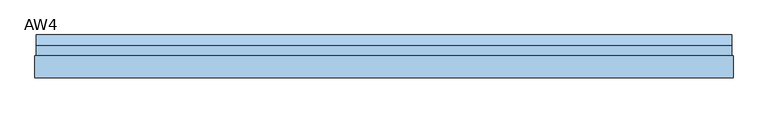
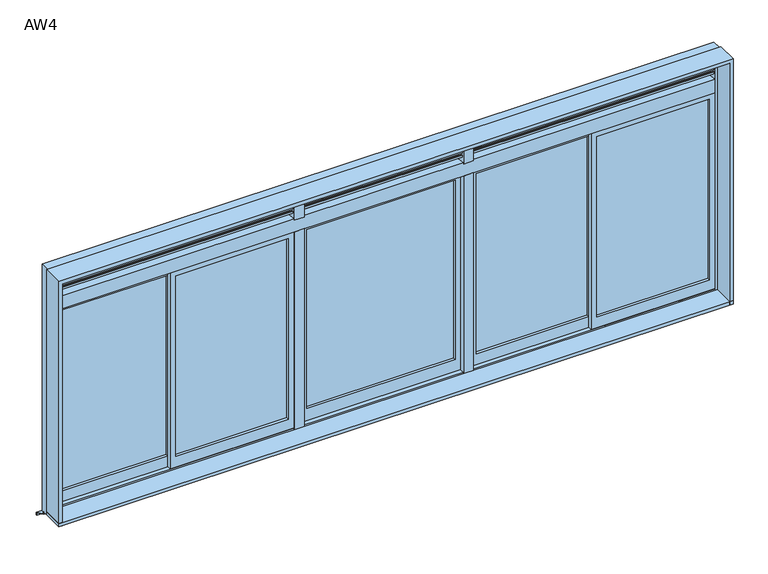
"""IFC4 building model written with IfcOpenShell, lengths in millimetres: window geometry, 営_連段窓_引違い+FIX/ガラリ : AW4."""

from ifc_helpers import new_model, si_unit, frame, origin, place, context, project, spatial, polyline, outline, extrude, source, transform, mapped, element, save


def aw4_4580bdda(model_context):
    return source(origin(), model_context, "Body", "SweptSolid", [
        extrude(outline(polyline([(20.0, 2823.2493654), (20.0, 2805.0), (15.0, 2805.0), (15.0, 2820.0), (-30.0, 2840.0), (-30.0, 2855.0), (-25.0, 2855.0), (-25.0, 2843.2493654), (20.0, 2823.2493654)])), frame((640.0, 0.0, 0.0), z_axis=(1.0, 0.0, 0.0), x_axis=(0.0, 1.0, 0.0)), (0.0, 0.0, 1.0), 1730.0),
        extrude(outline(polyline([(20.0, 2793.2493654), (20.0, 2775.0), (15.0, 2775.0), (15.0, 2790.0), (-30.0, 2810.0), (-30.0, 2825.0), (-25.0, 2825.0), (-25.0, 2813.2493654), (20.0, 2793.2493654)])), frame((640.0, 0.0, 0.0), z_axis=(1.0, 0.0, 0.0), x_axis=(0.0, 1.0, 0.0)), (0.0, 0.0, 1.0), 1730.0),
        extrude(outline(polyline([(20.0, 2763.2493654), (20.0, 2745.0), (15.0, 2745.0), (15.0, 2760.0), (-30.0, 2780.0), (-30.0, 2795.0), (-25.0, 2795.0), (-25.0, 2783.2493654), (20.0, 2763.2493654)])), frame((640.0, 0.0, 0.0), z_axis=(1.0, 0.0, 0.0), x_axis=(0.0, 1.0, 0.0)), (0.0, 0.0, 1.0), 1730.0),
        extrude(outline(polyline([(20.0, 2733.2493654), (20.0, 2715.0), (15.0, 2715.0), (15.0, 2730.0), (-30.0, 2750.0), (-30.0, 2765.0), (-25.0, 2765.0), (-25.0, 2753.2493654), (20.0, 2733.2493654)])), frame((640.0, 0.0, 0.0), z_axis=(1.0, 0.0, 0.0), x_axis=(0.0, 1.0, 0.0)), (0.0, 0.0, 1.0), 1730.0),
        extrude(outline(polyline([(20.0, 2853.2493654), (20.0, 2835.0), (15.0, 2835.0), (15.0, 2850.0), (-30.0, 2870.0), (-30.0, 2885.0), (-25.0, 2885.0), (-25.0, 2873.2493654), (20.0, 2853.2493654)])), frame((640.0, 0.0, 0.0), z_axis=(1.0, 0.0, 0.0), x_axis=(0.0, 1.0, 0.0)), (0.0, 0.0, 1.0), 1730.0),
        extrude(outline(polyline([(20.0, 2703.2493654), (20.0, 2685.0), (15.0, 2685.0), (15.0, 2700.0), (-30.0, 2720.0), (-30.0, 2735.0), (-25.0, 2735.0), (-25.0, 2723.2493654), (20.0, 2703.2493654)])), frame((640.0, 0.0, 0.0), z_axis=(1.0, 0.0, 0.0), x_axis=(0.0, 1.0, 0.0)), (0.0, 0.0, 1.0), 1730.0),
        extrude(outline(polyline([(20.0, 2823.2493654), (20.0, 2805.0), (15.0, 2805.0), (15.0, 2820.0), (-30.0, 2840.0), (-30.0, 2855.0), (-25.0, 2855.0), (-25.0, 2843.2493654), (20.0, 2823.2493654)])), frame((-570.0, 0.0, 0.0), z_axis=(1.0, 0.0, 0.0), x_axis=(0.0, 1.0, 0.0)), (0.0, 0.0, 1.0), 1140.0),
        extrude(outline(polyline([(20.0, 2793.2493654), (20.0, 2775.0), (15.0, 2775.0), (15.0, 2790.0), (-30.0, 2810.0), (-30.0, 2825.0), (-25.0, 2825.0), (-25.0, 2813.2493654), (20.0, 2793.2493654)])), frame((-570.0, 0.0, 0.0), z_axis=(1.0, 0.0, 0.0), x_axis=(0.0, 1.0, 0.0)), (0.0, 0.0, 1.0), 1140.0),
        extrude(outline(polyline([(20.0, 2763.2493654), (20.0, 2745.0), (15.0, 2745.0), (15.0, 2760.0), (-30.0, 2780.0), (-30.0, 2795.0), (-25.0, 2795.0), (-25.0, 2783.2493654), (20.0, 2763.2493654)])), frame((-570.0, 0.0, 0.0), z_axis=(1.0, 0.0, 0.0), x_axis=(0.0, 1.0, 0.0)), (0.0, 0.0, 1.0), 1140.0),
        extrude(outline(polyline([(20.0, 2733.2493654), (20.0, 2715.0), (15.0, 2715.0), (15.0, 2730.0), (-30.0, 2750.0), (-30.0, 2765.0), (-25.0, 2765.0), (-25.0, 2753.2493654), (20.0, 2733.2493654)])), frame((-570.0, 0.0, 0.0), z_axis=(1.0, 0.0, 0.0), x_axis=(0.0, 1.0, 0.0)), (0.0, 0.0, 1.0), 1140.0),
        extrude(outline(polyline([(20.0, 2853.2493654), (20.0, 2835.0), (15.0, 2835.0), (15.0, 2850.0), (-30.0, 2870.0), (-30.0, 2885.0), (-25.0, 2885.0), (-25.0, 2873.2493654), (20.0, 2853.2493654)])), frame((-570.0, 0.0, 0.0), z_axis=(1.0, 0.0, 0.0), x_axis=(0.0, 1.0, 0.0)), (0.0, 0.0, 1.0), 1140.0),
        extrude(outline(polyline([(20.0, 2703.2493654), (20.0, 2685.0), (15.0, 2685.0), (15.0, 2700.0), (-30.0, 2720.0), (-30.0, 2735.0), (-25.0, 2735.0), (-25.0, 2723.2493654), (20.0, 2703.2493654)])), frame((-570.0, 0.0, 0.0), z_axis=(1.0, 0.0, 0.0), x_axis=(0.0, 1.0, 0.0)), (0.0, 0.0, 1.0), 1140.0),
        extrude(outline(polyline([(20.0, 2823.2493654), (20.0, 2805.0), (15.0, 2805.0), (15.0, 2820.0), (-30.0, 2840.0), (-30.0, 2855.0), (-25.0, 2855.0), (-25.0, 2843.2493654), (20.0, 2823.2493654)])), frame((-2370.0, 0.0, 0.0), z_axis=(1.0, 0.0, 0.0), x_axis=(0.0, 1.0, 0.0)), (0.0, 0.0, 1.0), 1730.0),
        extrude(outline(polyline([(20.0, 2793.2493654), (20.0, 2775.0), (15.0, 2775.0), (15.0, 2790.0), (-30.0, 2810.0), (-30.0, 2825.0), (-25.0, 2825.0), (-25.0, 2813.2493654), (20.0, 2793.2493654)])), frame((-2370.0, 0.0, 0.0), z_axis=(1.0, 0.0, 0.0), x_axis=(0.0, 1.0, 0.0)), (0.0, 0.0, 1.0), 1730.0),
        extrude(outline(polyline([(20.0, 2763.2493654), (20.0, 2745.0), (15.0, 2745.0), (15.0, 2760.0), (-30.0, 2780.0), (-30.0, 2795.0), (-25.0, 2795.0), (-25.0, 2783.2493654), (20.0, 2763.2493654)])), frame((-2370.0, 0.0, 0.0), z_axis=(1.0, 0.0, 0.0), x_axis=(0.0, 1.0, 0.0)), (0.0, 0.0, 1.0), 1730.0),
        extrude(outline(polyline([(20.0, 2733.2493654), (20.0, 2715.0), (15.0, 2715.0), (15.0, 2730.0), (-30.0, 2750.0), (-30.0, 2765.0), (-25.0, 2765.0), (-25.0, 2753.2493654), (20.0, 2733.2493654)])), frame((-2370.0, 0.0, 0.0), z_axis=(1.0, 0.0, 0.0), x_axis=(0.0, 1.0, 0.0)), (0.0, 0.0, 1.0), 1730.0),
        extrude(outline(polyline([(20.0, 2853.2493654), (20.0, 2835.0), (15.0, 2835.0), (15.0, 2850.0), (-30.0, 2870.0), (-30.0, 2885.0), (-25.0, 2885.0), (-25.0, 2873.2493654), (20.0, 2853.2493654)])), frame((-2370.0, 0.0, 0.0), z_axis=(1.0, 0.0, 0.0), x_axis=(0.0, 1.0, 0.0)), (0.0, 0.0, 1.0), 1730.0),
        extrude(outline(polyline([(20.0, 2703.2493654), (20.0, 2685.0), (15.0, 2685.0), (15.0, 2700.0), (-30.0, 2720.0), (-30.0, 2735.0), (-25.0, 2735.0), (-25.0, 2723.2493654), (20.0, 2703.2493654)])), frame((-2370.0, 0.0, 0.0), z_axis=(1.0, 0.0, 0.0), x_axis=(0.0, 1.0, 0.0)), (0.0, 0.0, 1.0), 1730.0),
        extrude(outline(polyline([(2330.0, -20.0), (1525.0, -20.0), (1525.0, -15.0), (2330.0, -15.0), (2330.0, -20.0)])), frame((0.0, 0.0, 1180.0), z_axis=(0.0, 0.0, 1.0), x_axis=(1.0, 0.0, 0.0)), (0.0, 0.0, 1.0), 1365.0),
        extrude(outline(polyline([(1485.0, 10.0), (680.0, 10.0), (680.0, 15.0), (1485.0, 15.0), (1485.0, 10.0)])), frame((0.0, 0.0, 1180.0), z_axis=(0.0, 0.0, 1.0), x_axis=(1.0, 0.0, 0.0)), (0.0, 0.0, 1.0), 1365.0),
        extrude(outline(polyline([(1100.0, 2370.0), (2585.0, 2370.0), (2585.0, 1485.0), (1100.0, 1485.0), (1100.0, 2370.0)]), holes=[polyline([(1180.0, 2330.0), (1180.0, 1525.0), (2545.0, 1525.0), (2545.0, 2330.0), (1180.0, 2330.0)])]), frame((0.0, -40.0, 0.0), z_axis=(0.0, 1.0, 0.0), x_axis=(0.0, 0.0, 1.0)), (0.0, 0.0, 1.0), 30.0),
        extrude(outline(polyline([(1100.0, 1525.0), (2585.0, 1525.0), (2585.0, 640.0), (1100.0, 640.0), (1100.0, 1525.0)]), holes=[polyline([(1180.0, 1485.0), (1180.0, 680.0), (2545.0, 680.0), (2545.0, 1485.0), (1180.0, 1485.0)])]), frame((0.0, -10.0, 0.0), z_axis=(0.0, 1.0, 0.0), x_axis=(0.0, 0.0, 1.0)), (0.0, 0.0, 1.0), 30.0),
        extrude(outline(polyline([(530.0, 10.0), (-530.0, 10.0), (-530.0, 15.0), (530.0, 15.0), (530.0, 10.0)])), frame((0.0, 0.0, 1190.0), z_axis=(0.0, 0.0, 1.0), x_axis=(1.0, 0.0, 0.0)), (0.0, 0.0, 1.0), 1355.0),
        extrude(outline(polyline([(1100.0, 570.0), (2585.0, 570.0), (2585.0, -570.0), (1100.0, -570.0), (1100.0, 570.0)]), holes=[polyline([(1190.0, 530.0), (1190.0, -530.0), (2545.0, -530.0), (2545.0, 530.0), (1190.0, 530.0)])]), frame((0.0, -10.0, 0.0), z_axis=(0.0, 1.0, 0.0), x_axis=(0.0, 0.0, 1.0)), (0.0, 0.0, 1.0), 30.0),
        extrude(outline(polyline([(-680.0, -20.0), (-1485.0, -20.0), (-1485.0, -15.0), (-680.0, -15.0), (-680.0, -20.0)])), frame((0.0, 0.0, 1180.0), z_axis=(0.0, 0.0, 1.0), x_axis=(1.0, 0.0, 0.0)), (0.0, 0.0, 1.0), 1365.0),
        extrude(outline(polyline([(-1525.0, 10.0), (-2330.0, 10.0), (-2330.0, 15.0), (-1525.0, 15.0), (-1525.0, 10.0)])), frame((0.0, 0.0, 1180.0), z_axis=(0.0, 0.0, 1.0), x_axis=(1.0, 0.0, 0.0)), (0.0, 0.0, 1.0), 1365.0),
        extrude(outline(polyline([(1100.0, -640.0), (2585.0, -640.0), (2585.0, -1525.0), (1100.0, -1525.0), (1100.0, -640.0)]), holes=[polyline([(1180.0, -680.0), (1180.0, -1485.0), (2545.0, -1485.0), (2545.0, -680.0), (1180.0, -680.0)])]), frame((0.0, -40.0, 0.0), z_axis=(0.0, 1.0, 0.0), x_axis=(0.0, 0.0, 1.0)), (0.0, 0.0, 1.0), 30.0),
        extrude(outline(polyline([(1100.0, -1485.0), (2585.0, -1485.0), (2585.0, -2370.0), (1100.0, -2370.0), (1100.0, -1485.0)]), holes=[polyline([(1180.0, -1525.0), (1180.0, -2330.0), (2545.0, -2330.0), (2545.0, -1525.0), (1180.0, -1525.0)])]), frame((0.0, -10.0, 0.0), z_axis=(0.0, 1.0, 0.0), x_axis=(0.0, 0.0, 1.0)), (0.0, 0.0, 1.0), 30.0),
        extrude(outline(polyline([(640.0, -45.0), (570.0, -45.0), (570.0, 25.0), (640.0, 25.0), (640.0, -45.0)])), frame((0.0, 0.0, 2675.0), z_axis=(0.0, 0.0, 1.0), x_axis=(1.0, 0.0, 0.0)), (0.0, 0.0, 1.0), 210.0),
        extrude(outline(polyline([(-570.0, -45.0), (-640.0, -45.0), (-640.0, 25.0), (-570.0, 25.0), (-570.0, -45.0)])), frame((0.0, 0.0, 2675.0), z_axis=(0.0, 0.0, 1.0), x_axis=(1.0, 0.0, 0.0)), (0.0, 0.0, 1.0), 210.0),
        extrude(outline(polyline([(-570.0, -45.0), (-640.0, -45.0), (-640.0, 25.0), (-570.0, 25.0), (-570.0, -45.0)])), frame((0.0, 0.0, 1090.0), z_axis=(0.0, 0.0, 1.0), x_axis=(1.0, 0.0, 0.0)), (0.0, 0.0, 1.0), 1495.0),
        extrude(outline(polyline([(640.0, -45.0), (570.0, -45.0), (570.0, 25.0), (640.0, 25.0), (640.0, -45.0)])), frame((0.0, 0.0, 1090.0), z_axis=(0.0, 0.0, 1.0), x_axis=(1.0, 0.0, 0.0)), (0.0, 0.0, 1.0), 1495.0),
        extrude(outline(polyline([(2410.0, -195.0), (-2410.0, -195.0), (-2410.0, -45.0), (2410.0, -45.0), (2410.0, -195.0)])), frame((0.0, 0.0, 1065.0), z_axis=(0.0, 0.0, 1.0), x_axis=(1.0, 0.0, 0.0)), (0.0, 0.0, 1.0), 25.0),
        extrude(outline(polyline([(15.0, 1035.0), (100.0, 995.0), (100.0, 975.0), (95.0014518, 975.0), (95.0014518, 991.8262891), (10.0, 1031.8269723), (10.0, 1050.0), (15.0, 1050.0), (15.0, 1035.0)])), frame((-2400.0, 0.0, 0.0), z_axis=(1.0, 0.0, 0.0), x_axis=(0.0, 1.0, 0.0)), (0.0, 0.0, 1.0), 4800.0),
        extrude(outline(polyline([(1065.0, -2410.0), (1065.0, -2385.0), (2895.0, -2385.0), (2895.0, 2385.0), (1065.0, 2385.0), (1065.0, 2410.0), (2920.0, 2410.0), (2920.0, -2410.0), (1065.0, -2410.0)])), frame((0.0, -195.0, 0.0), z_axis=(0.0, 1.0, 0.0), x_axis=(0.0, 0.0, 1.0)), (0.0, 0.0, 1.0), 150.0),
        extrude(outline(polyline([(1050.0, -2400.0), (1050.0, -2370.0), (2885.0, -2370.0), (2885.0, 2370.0), (1050.0, 2370.0), (1050.0, 2400.0), (2915.0, 2400.0), (2915.0, -2400.0), (1050.0, -2400.0)])), frame((0.0, -45.0, 0.0), z_axis=(0.0, 1.0, 0.0), x_axis=(0.0, 0.0, 1.0)), (0.0, 0.0, 1.0), 70.0),
        extrude(outline(polyline([(-45.0, 1050.0), (-45.0, 1100.0), (25.0, 1090.6666667), (25.0, 1050.0), (-45.0, 1050.0)])), frame((-2370.0, 0.0, 0.0), z_axis=(1.0, 0.0, 0.0), x_axis=(0.0, 1.0, 0.0)), (0.0, 0.0, 1.0), 4740.0),
        extrude(outline(polyline([(25.0, 2585.0), (-45.0, 2585.0), (-45.0, 2685.0), (25.0, 2675.0), (25.0, 2585.0)])), frame((-2370.0, 0.0, 0.0), z_axis=(1.0, 0.0, 0.0), x_axis=(0.0, 1.0, 0.0)), (0.0, 0.0, 1.0), 4740.0),
    ])


if __name__ == "__main__":
    model = new_model("IFC4")
    model_context = context("Model", 3, world=origin())
    ifc_project = project(units=[si_unit("LENGTHUNIT", "METRE", prefix="MILLI")], contexts=[model_context])
    site = spatial("IfcSite", under=ifc_project)
    building = spatial("IfcBuilding", under=site)
    placement = place(None, origin())
    aw4_shape = aw4_4580bdda(model_context)
    element("IfcWindow", 1, ObjectType="営_連段窓_引違い+FIX/ガラリ : AW4", at=placement, inside=building, context=model_context, shape_type="MappedRepresentation", body=[
        mapped(aw4_shape, transform((0.0, 0.0, 0.0), x_axis=(1.0, 0.0, 0.0), y_axis=(0.0, 1.0, 0.0), z_axis=(0.0, 0.0, 1.0))),
    ])
    save(model, "model.ifc")
